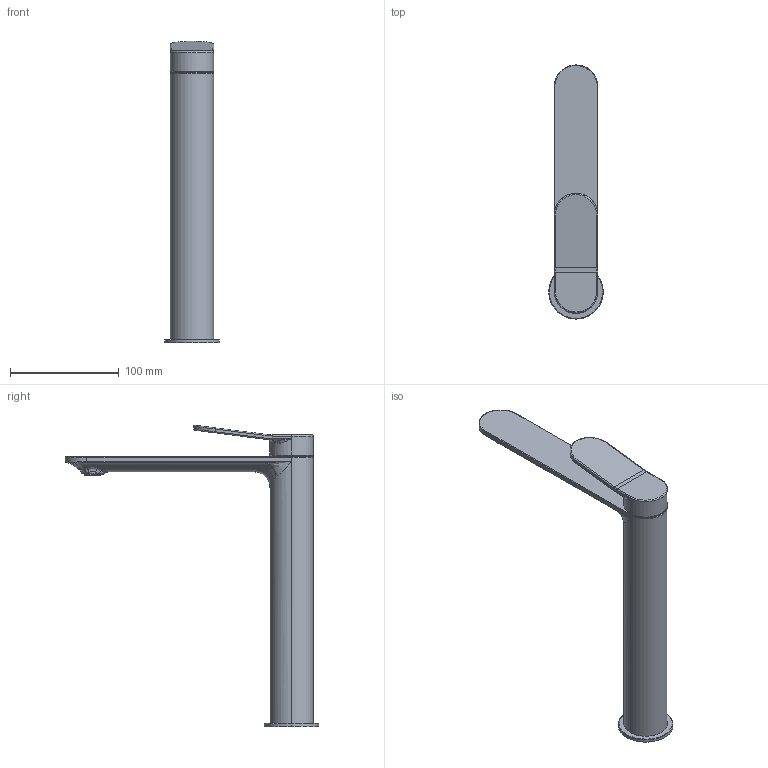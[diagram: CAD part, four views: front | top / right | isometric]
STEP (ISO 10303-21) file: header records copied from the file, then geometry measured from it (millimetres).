
FILE_DESCRIPTION (( 'STEP AP214' ), '1' );
FILE_NAME ('82301810 x architetti.STEP', '2024-11-27T16:22:57', ( '' ), ( '' ), 'SwSTEP 2.0', 'SolidWorks 2020', '' );
FILE_SCHEMA (( 'AUTOMOTIVE_DESIGN' ));
Length unit declared in the file: millimetre
Products named in the file (3): F0005899; 82301810 x architetti
Assembly tree (2 placements, depth 2):
  82301810 x architetti
    82301810 x architetti
    F0005899
Bounding box: 50 x 233 x 276.86 mm (x, y, z)
Volume: 428598.3 mm3; surface area: 63695.4 mm2
Topology: 2 solids, 2 shells, 3932 faces, 10045 edges, 6479 vertices
Faces by surface type: plane 2979, cone 419, cylinder 393, bspline 141
Entity records: 159272 total; most frequent: CARTESIAN_POINT 45045, ORIENTED_EDGE 20082, DIRECTION 12471, EDGE_CURVE 10041, VERTEX_POINT 6479, B_SPLINE_CURVE_WITH_KNOTS 5106, EDGE_LOOP 4298, AXIS2_PLACEMENT_3D 4170
